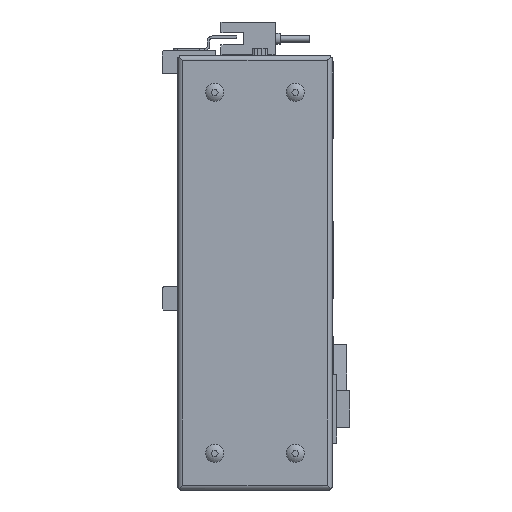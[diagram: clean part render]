
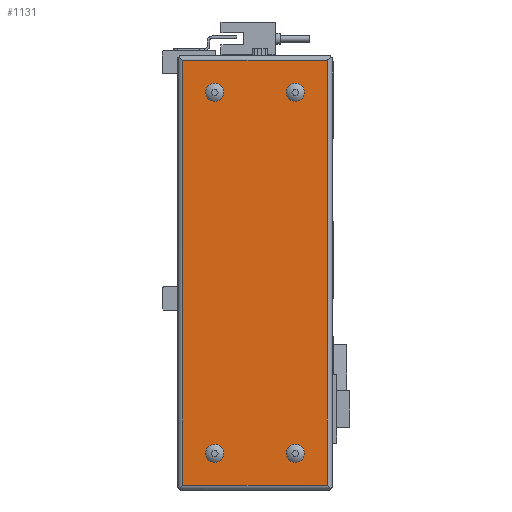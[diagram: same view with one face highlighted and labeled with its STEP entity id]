
A CAD part, left-side view. The second image highlights one B-rep face of the part: STEP entity #1131.
In plain terms, the highlighted planar face has unit normal (-1, 0, 0).
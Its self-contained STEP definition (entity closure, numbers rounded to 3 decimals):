
#1131 = ADVANCED_FACE( '', ( #2758, #2759, #2760, #2761, #2762 ), #2763, .F. );
#2758 = FACE_BOUND( '', #5039, .T. );
#2759 = FACE_BOUND( '', #5040, .T. );
#2760 = FACE_BOUND( '', #5041, .T. );
#2761 = FACE_BOUND( '', #5042, .T. );
#2762 = FACE_OUTER_BOUND( '', #5043, .T. );
#2763 = PLANE( '', #5044 );
#5039 = EDGE_LOOP( '', ( #8004 ) );
#5040 = EDGE_LOOP( '', ( #8005 ) );
#5041 = EDGE_LOOP( '', ( #8006 ) );
#5042 = EDGE_LOOP( '', ( #8007 ) );
#5043 = EDGE_LOOP( '', ( #8008, #8009, #8010, #8011 ) );
#5044 = AXIS2_PLACEMENT_3D( '', #8012, #8013, #8014 );
#8004 = ORIENTED_EDGE( '', *, *, #13416, .F. );
#8005 = ORIENTED_EDGE( '', *, *, #13742, .F. );
#8006 = ORIENTED_EDGE( '', *, *, #13891, .F. );
#8007 = ORIENTED_EDGE( '', *, *, #13892, .F. );
#8008 = ORIENTED_EDGE( '', *, *, #13496, .F. );
#8009 = ORIENTED_EDGE( '', *, *, #13893, .F. );
#8010 = ORIENTED_EDGE( '', *, *, #13804, .T. );
#8011 = ORIENTED_EDGE( '', *, *, #13894, .T. );
#8012 = CARTESIAN_POINT( '', ( -52., 0., 0. ) );
#8013 = DIRECTION( '', ( 1., 0., 0. ) );
#8014 = DIRECTION( '', ( 0., 0., -1. ) );
#13416 = EDGE_CURVE( '', #16048, #16048, #16049, .F. );
#13496 = EDGE_CURVE( '', #16189, #16191, #16192, .T. );
#13742 = EDGE_CURVE( '', #16615, #16615, #16616, .F. );
#13804 = EDGE_CURVE( '', #16723, #16724, #16725, .T. );
#13891 = EDGE_CURVE( '', #16864, #16864, #16865, .F. );
#13892 = EDGE_CURVE( '', #16866, #16866, #16867, .F. );
#13893 = EDGE_CURVE( '', #16723, #16189, #16868, .T. );
#13894 = EDGE_CURVE( '', #16724, #16191, #16869, .T. );
#16048 = VERTEX_POINT( '', #19917 );
#16049 = CIRCLE( '', #19918, 3.7 );
#16189 = VERTEX_POINT( '', #20107 );
#16191 = VERTEX_POINT( '', #20109 );
#16192 = LINE( '', #20110, #20111 );
#16615 = VERTEX_POINT( '', #20730 );
#16616 = CIRCLE( '', #20731, 3.7 );
#16723 = VERTEX_POINT( '', #20919 );
#16724 = VERTEX_POINT( '', #20920 );
#16725 = LINE( '', #20921, #20922 );
#16864 = VERTEX_POINT( '', #21116 );
#16865 = CIRCLE( '', #21117, 3.7 );
#16866 = VERTEX_POINT( '', #21118 );
#16867 = CIRCLE( '', #21119, 3.7 );
#16868 = LINE( '', #21120, #21121 );
#16869 = LINE( '', #21122, #21123 );
#19917 = CARTESIAN_POINT( '', ( -52., 48.5, -115.2 ) );
#19918 = AXIS2_PLACEMENT_3D( '', #25029, #25030, #25031 );
#20107 = CARTESIAN_POINT( '', ( -52., 2.5, 49. ) );
#20109 = CARTESIAN_POINT( '', ( -52., 2.5, -124.5 ) );
#20110 = CARTESIAN_POINT( '', ( -52., 2.5, 177.5 ) );
#20111 = VECTOR( '', #25123, 1000. );
#20730 = CARTESIAN_POINT( '', ( -52., 15.5, 32.3 ) );
#20731 = AXIS2_PLACEMENT_3D( '', #25419, #25420, #25421 );
#20919 = CARTESIAN_POINT( '', ( -52., 61.5, 49. ) );
#20920 = CARTESIAN_POINT( '', ( -52., 61.5, -124.5 ) );
#20921 = CARTESIAN_POINT( '', ( -52., 61.5, 177.5 ) );
#20922 = VECTOR( '', #25495, 1000. );
#21116 = CARTESIAN_POINT( '', ( -52., 15.5, -115.2 ) );
#21117 = AXIS2_PLACEMENT_3D( '', #25587, #25588, #25589 );
#21118 = CARTESIAN_POINT( '', ( -52., 48.5, 32.3 ) );
#21119 = AXIS2_PLACEMENT_3D( '', #25590, #25591, #25592 );
#21120 = CARTESIAN_POINT( '', ( -52., 177.5, 49. ) );
#21121 = VECTOR( '', #25593, 1000. );
#21122 = CARTESIAN_POINT( '', ( -52., 177.5, -124.5 ) );
#21123 = VECTOR( '', #25594, 1000. );
#25029 = CARTESIAN_POINT( '', ( -52., 48.5, -111.5 ) );
#25030 = DIRECTION( '', ( 1., 0., 0. ) );
#25031 = DIRECTION( '', ( 0., 0., -1. ) );
#25123 = DIRECTION( '', ( 0., 0., -1. ) );
#25419 = CARTESIAN_POINT( '', ( -52., 15.5, 36. ) );
#25420 = DIRECTION( '', ( 1., 0., 0. ) );
#25421 = DIRECTION( '', ( 0., 0., -1. ) );
#25495 = DIRECTION( '', ( 0., 0., -1. ) );
#25587 = CARTESIAN_POINT( '', ( -52., 15.5, -111.5 ) );
#25588 = DIRECTION( '', ( 1., 0., 0. ) );
#25589 = DIRECTION( '', ( 0., 0., -1. ) );
#25590 = CARTESIAN_POINT( '', ( -52., 48.5, 36. ) );
#25591 = DIRECTION( '', ( 1., 0., 0. ) );
#25592 = DIRECTION( '', ( 0., 0., -1. ) );
#25593 = DIRECTION( '', ( 0., -1., 0. ) );
#25594 = DIRECTION( '', ( 0., -1., 0. ) );
